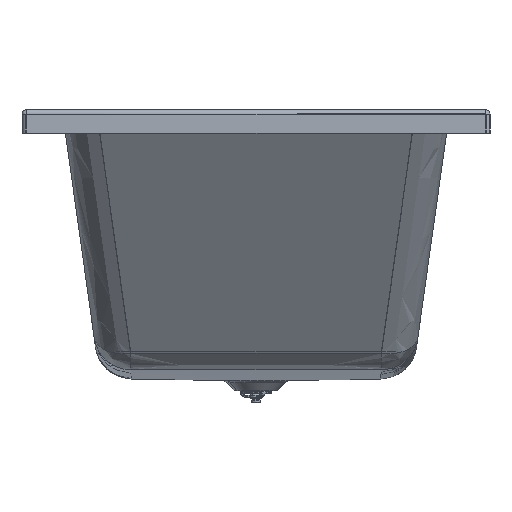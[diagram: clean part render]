
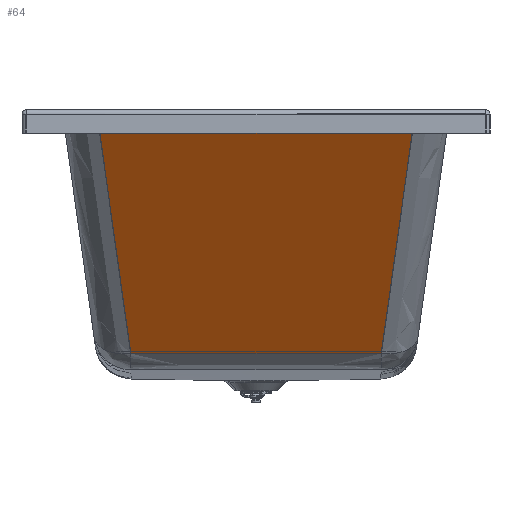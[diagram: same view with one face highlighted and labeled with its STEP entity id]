
A CAD part, left-side view. The second image highlights one B-rep face of the part: STEP entity #64.
In plain terms, the highlighted planar face has unit normal (-0.829, 0, -0.559).
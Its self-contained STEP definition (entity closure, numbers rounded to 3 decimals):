
#64=ADVANCED_FACE('',(#466),#5832,.T.);
#466=FACE_OUTER_BOUND('',#870,.T.);
#870=EDGE_LOOP('',(#1367,#1368,#1369,#1370));
#1367=ORIENTED_EDGE('',*,*,#3303,.T.);
#1368=ORIENTED_EDGE('',*,*,#3287,.F.);
#1369=ORIENTED_EDGE('',*,*,#3304,.T.);
#1370=ORIENTED_EDGE('',*,*,#3305,.T.);
#3287=EDGE_CURVE('',#5252,#5251,#4260,.T.);
#3303=EDGE_CURVE('',#5260,#5251,#4272,.T.);
#3304=EDGE_CURVE('',#5252,#5261,#4273,.T.);
#3305=EDGE_CURVE('',#5261,#5260,#4274,.T.);
#4260=B_SPLINE_CURVE_WITH_KNOTS('',1,(#11736,#11737),.UNSPECIFIED.,.F.,
 .F.,(2,2),(0.,435.562),.UNSPECIFIED.);
#4272=B_SPLINE_CURVE_WITH_KNOTS('',5,(#11813,#11814,#11815,#11816,#11817,
#11818),.UNSPECIFIED.,.F.,.F.,(6,6),(749.556,1236.964),
 .UNSPECIFIED.);
#4273=B_SPLINE_CURVE_WITH_KNOTS('',1,(#11819,#11820),.UNSPECIFIED.,.F.,
 .F.,(2,2),(0.,476.009),.UNSPECIFIED.);
#4274=B_SPLINE_CURVE_WITH_KNOTS('',1,(#11821,#11822),.UNSPECIFIED.,.F.,
 .F.,(2,2),(-251.784,183.778),.UNSPECIFIED.);
#5251=VERTEX_POINT('',#11339);
#5252=VERTEX_POINT('',#11340);
#5260=VERTEX_POINT('',#11348);
#5261=VERTEX_POINT('',#11349);
#5832=PLANE('',#6218);
#6218=AXIS2_PLACEMENT_3D('',#7233,#6322,$);
#6322=DIRECTION('',(-0.829,0.,-0.559));
#7233=CARTESIAN_POINT('',(-811.324,-285.665,630.086));
#11339=CARTESIAN_POINT('',(-545.137,-187.596,235.447));
#11340=CARTESIAN_POINT('',(-787.064,-238.004,594.118));
#11348=CARTESIAN_POINT('',(-545.137,187.596,235.447));
#11349=CARTESIAN_POINT('',(-787.064,238.004,594.118));
#11736=CARTESIAN_POINT('',(-787.064,-238.004,594.118));
#11737=CARTESIAN_POINT('',(-545.137,-187.596,235.447));
#11813=CARTESIAN_POINT('',(-545.137,187.596,235.447));
#11814=CARTESIAN_POINT('',(-544.997,112.401,235.239));
#11815=CARTESIAN_POINT('',(-544.925,37.423,235.133));
#11816=CARTESIAN_POINT('',(-544.925,-37.427,235.133));
#11817=CARTESIAN_POINT('',(-544.997,-112.402,235.239));
#11818=CARTESIAN_POINT('',(-545.137,-187.596,235.447));
#11819=CARTESIAN_POINT('',(-787.064,-238.004,594.118));
#11820=CARTESIAN_POINT('',(-787.064,238.004,594.118));
#11821=CARTESIAN_POINT('',(-787.064,238.004,594.118));
#11822=CARTESIAN_POINT('',(-545.137,187.596,235.447));
